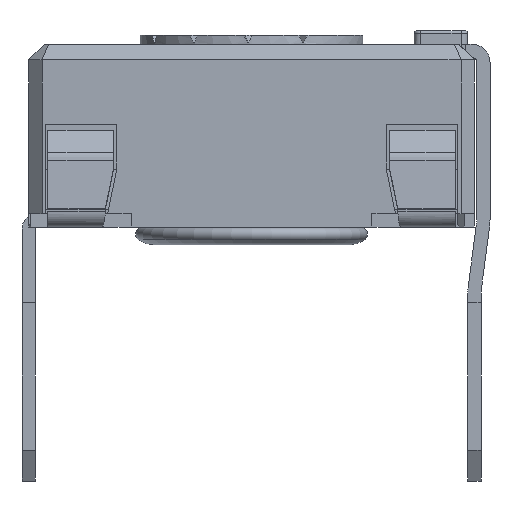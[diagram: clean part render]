
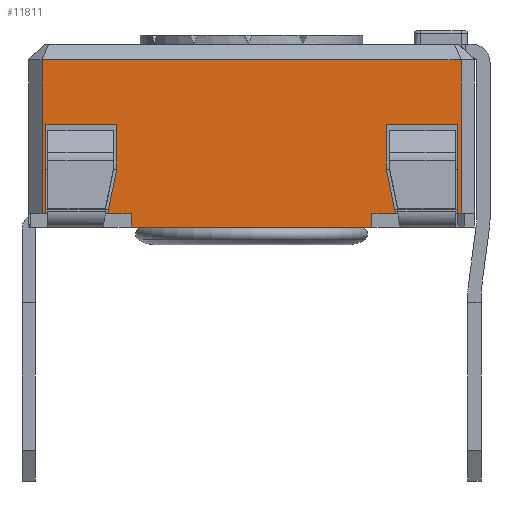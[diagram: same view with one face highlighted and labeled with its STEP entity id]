
A CAD part, left-side view. The second image highlights one B-rep face of the part: STEP entity #11811.
In plain terms, the highlighted planar face has unit normal (-1, 0, 0).
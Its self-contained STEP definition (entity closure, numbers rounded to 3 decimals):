
#947=FACE_OUTER_BOUND('',#1558,.T.);
#1558=EDGE_LOOP('',(#9895,#9896,#9897,#9898,#9899,#9900,#9901,#9902,#9903,
#9904,#9905,#9906,#9907,#9908,#9909,#9910,#9911,#9912));
#2393=LINE('',#17679,#3774);
#2424=LINE('',#17741,#3805);
#2430=LINE('',#17753,#3811);
#2451=LINE('',#17795,#3832);
#2619=LINE('',#18321,#4000);
#2662=LINE('',#18403,#4043);
#2665=LINE('',#18409,#4046);
#2806=LINE('',#18767,#4187);
#2808=LINE('',#18771,#4189);
#2812=LINE('',#18779,#4193);
#2815=LINE('',#18785,#4196);
#2822=LINE('',#18799,#4203);
#2824=LINE('',#18803,#4205);
#2830=LINE('',#18814,#4211);
#2831=LINE('',#18816,#4212);
#2832=LINE('',#18819,#4213);
#2833=LINE('',#18821,#4214);
#2834=LINE('',#18822,#4215);
#3774=VECTOR('',#14359,10.);
#3805=VECTOR('',#14394,10.);
#3811=VECTOR('',#14400,10.);
#3832=VECTOR('',#14423,10.);
#4000=VECTOR('',#14897,10.);
#4043=VECTOR('',#14972,10.);
#4046=VECTOR('',#14981,10.);
#4187=VECTOR('',#15328,10.);
#4189=VECTOR('',#15332,10.);
#4193=VECTOR('',#15338,10.);
#4196=VECTOR('',#15343,10.);
#4203=VECTOR('',#15358,10.);
#4205=VECTOR('',#15362,10.);
#4211=VECTOR('',#15374,10.);
#4212=VECTOR('',#15377,10.);
#4213=VECTOR('',#15380,10.);
#4214=VECTOR('',#15381,10.);
#4215=VECTOR('',#15382,10.);
#5045=VERTEX_POINT('',#17676);
#5046=VERTEX_POINT('',#17678);
#5074=VERTEX_POINT('',#17738);
#5075=VERTEX_POINT('',#17740);
#5080=VERTEX_POINT('',#17750);
#5081=VERTEX_POINT('',#17752);
#5100=VERTEX_POINT('',#17792);
#5101=VERTEX_POINT('',#17794);
#5251=VERTEX_POINT('',#18318);
#5252=VERTEX_POINT('',#18320);
#5365=VERTEX_POINT('',#18765);
#5366=VERTEX_POINT('',#18770);
#5369=VERTEX_POINT('',#18777);
#5371=VERTEX_POINT('',#18784);
#5374=VERTEX_POINT('',#18798);
#5375=VERTEX_POINT('',#18802);
#5378=VERTEX_POINT('',#18818);
#5379=VERTEX_POINT('',#18820);
#6401=EDGE_CURVE('',#5046,#5045,#2393,.T.);
#6432=EDGE_CURVE('',#5075,#5074,#2424,.T.);
#6438=EDGE_CURVE('',#5081,#5080,#2430,.T.);
#6459=EDGE_CURVE('',#5101,#5100,#2451,.T.);
#6704=EDGE_CURVE('',#5252,#5251,#2619,.T.);
#6747=EDGE_CURVE('',#5075,#5251,#2662,.T.);
#6750=EDGE_CURVE('',#5080,#5252,#2665,.T.);
#6924=EDGE_CURVE('',#5074,#5365,#2806,.T.);
#6926=EDGE_CURVE('',#5366,#5081,#2808,.T.);
#6930=EDGE_CURVE('',#5365,#5369,#2812,.T.);
#6933=EDGE_CURVE('',#5371,#5366,#2815,.T.);
#6940=EDGE_CURVE('',#5374,#5371,#2822,.T.);
#6942=EDGE_CURVE('',#5375,#5101,#2824,.T.);
#6948=EDGE_CURVE('',#5369,#5375,#2830,.T.);
#6949=EDGE_CURVE('',#5045,#5374,#2831,.T.);
#6950=EDGE_CURVE('',#5378,#5100,#2832,.T.);
#6951=EDGE_CURVE('',#5379,#5378,#2833,.T.);
#6952=EDGE_CURVE('',#5379,#5046,#2834,.T.);
#9895=ORIENTED_EDGE('',*,*,#6949,.T.);
#9896=ORIENTED_EDGE('',*,*,#6940,.T.);
#9897=ORIENTED_EDGE('',*,*,#6933,.T.);
#9898=ORIENTED_EDGE('',*,*,#6926,.T.);
#9899=ORIENTED_EDGE('',*,*,#6438,.T.);
#9900=ORIENTED_EDGE('',*,*,#6750,.T.);
#9901=ORIENTED_EDGE('',*,*,#6704,.T.);
#9902=ORIENTED_EDGE('',*,*,#6747,.F.);
#9903=ORIENTED_EDGE('',*,*,#6432,.T.);
#9904=ORIENTED_EDGE('',*,*,#6924,.T.);
#9905=ORIENTED_EDGE('',*,*,#6930,.T.);
#9906=ORIENTED_EDGE('',*,*,#6948,.T.);
#9907=ORIENTED_EDGE('',*,*,#6942,.T.);
#9908=ORIENTED_EDGE('',*,*,#6459,.T.);
#9909=ORIENTED_EDGE('',*,*,#6950,.F.);
#9910=ORIENTED_EDGE('',*,*,#6951,.F.);
#9911=ORIENTED_EDGE('',*,*,#6952,.T.);
#9912=ORIENTED_EDGE('',*,*,#6401,.T.);
#11026=PLANE('',#12674);
#11811=ADVANCED_FACE('',(#947),#11026,.T.);
#12674=AXIS2_PLACEMENT_3D('',#18817,#15378,#15379);
#14359=DIRECTION('',(0.,-1.,0.));
#14394=DIRECTION('',(0.,-1.,0.));
#14400=DIRECTION('',(0.,-1.,0.));
#14423=DIRECTION('',(0.,-1.,0.));
#14897=DIRECTION('',(0.,-1.,0.));
#14972=DIRECTION('',(0.,0.,-1.));
#14981=DIRECTION('',(0.,0.,-1.));
#15328=DIRECTION('',(0.,0.199,0.98));
#15332=DIRECTION('',(0.,0.199,-0.98));
#15338=DIRECTION('',(0.,0.,1.));
#15343=DIRECTION('',(0.,0.,-1.));
#15358=DIRECTION('',(0.,-1.,0.));
#15362=DIRECTION('',(0.,0.,-1.));
#15374=DIRECTION('',(0.,-1.,0.));
#15377=DIRECTION('',(0.,0.,1.));
#15378=DIRECTION('center_axis',(-1.,0.,0.));
#15379=DIRECTION('ref_axis',(0.,0.,1.));
#15380=DIRECTION('',(0.,0.,-1.));
#15381=DIRECTION('',(0.,-1.,0.));
#15382=DIRECTION('',(0.,0.,-1.));
#17676=CARTESIAN_POINT('',(-31.348,-8.365,-3.8));
#17678=CARTESIAN_POINT('',(-31.348,-8.29,-3.8));
#17679=CARTESIAN_POINT('',(-31.348,-17.69,-3.8));
#17738=CARTESIAN_POINT('',(-31.348,-16.219,-3.8));
#17740=CARTESIAN_POINT('',(-31.348,-15.69,-3.8));
#17741=CARTESIAN_POINT('',(-31.348,-9.762,-3.8));
#17750=CARTESIAN_POINT('',(-31.348,-10.29,-3.8));
#17752=CARTESIAN_POINT('',(-31.348,-9.762,-3.8));
#17753=CARTESIAN_POINT('',(-31.348,-9.762,-3.8));
#17792=CARTESIAN_POINT('',(-31.348,-17.69,-3.8));
#17794=CARTESIAN_POINT('',(-31.348,-17.615,-3.8));
#17795=CARTESIAN_POINT('',(-31.348,-17.69,-3.8));
#18318=CARTESIAN_POINT('',(-31.348,-15.69,-4.1));
#18320=CARTESIAN_POINT('',(-31.348,-10.29,-4.1));
#18321=CARTESIAN_POINT('',(-31.348,-16.219,-4.1));
#18403=CARTESIAN_POINT('',(-31.348,-15.69,-3.8));
#18409=CARTESIAN_POINT('',(-31.348,-10.29,-3.8));
#18765=CARTESIAN_POINT('',(-31.348,-16.015,-2.8));
#18767=CARTESIAN_POINT('',(-31.348,-16.219,-3.8));
#18770=CARTESIAN_POINT('',(-31.348,-9.965,-2.8));
#18771=CARTESIAN_POINT('',(-31.348,-9.965,-2.8));
#18777=CARTESIAN_POINT('',(-31.348,-16.015,-1.8));
#18779=CARTESIAN_POINT('',(-31.348,-16.015,-2.8));
#18784=CARTESIAN_POINT('',(-31.348,-9.965,-1.8));
#18785=CARTESIAN_POINT('',(-31.348,-9.965,-1.8));
#18798=CARTESIAN_POINT('',(-31.348,-8.365,-1.8));
#18799=CARTESIAN_POINT('',(-31.348,-10.64,-1.8));
#18802=CARTESIAN_POINT('',(-31.348,-17.615,-1.8));
#18803=CARTESIAN_POINT('',(-31.348,-17.615,-1.368));
#18814=CARTESIAN_POINT('',(-31.348,-10.64,-1.8));
#18816=CARTESIAN_POINT('',(-31.348,-8.365,-1.368));
#18817=CARTESIAN_POINT('Origin',(-31.348,-8.29,0.));
#18818=CARTESIAN_POINT('',(-31.348,-17.69,-0.35));
#18819=CARTESIAN_POINT('',(-31.348,-17.69,0.));
#18820=CARTESIAN_POINT('',(-31.348,-8.29,-0.35));
#18821=CARTESIAN_POINT('',(-31.348,-10.64,-0.35));
#18822=CARTESIAN_POINT('',(-31.348,-8.29,0.));
